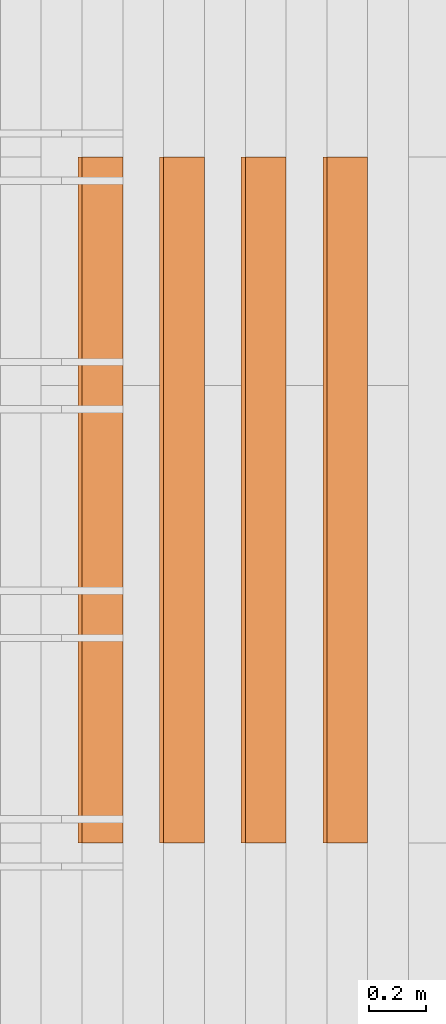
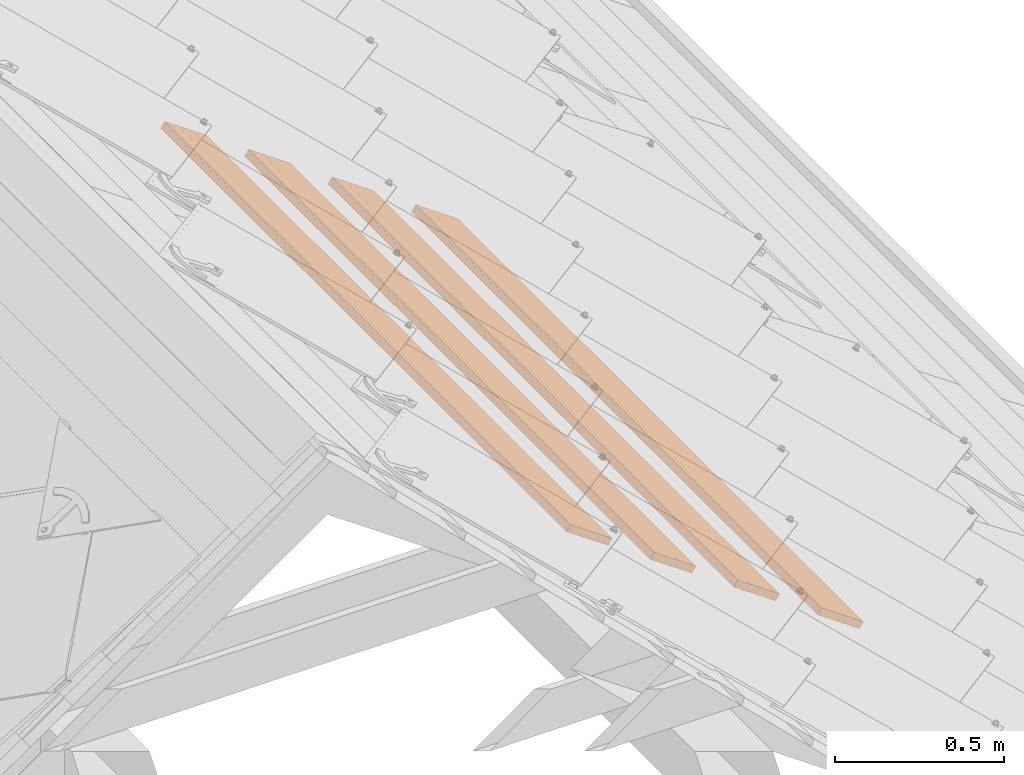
# One storey, part 42 of 133: 4 proxies, 1 element without a shape of its own.
"""IFC2X3 building model written with IfcOpenShell, lengths in millimetres."""

import ifcopenshell
import ifcopenshell.guid

model = None  # the IFC model being written
_history = None  # IfcOwnerHistory: only IFC2X3 demands one
_inside = {}  # id of a spatial element -> (the spatial element, [elements in it])
_under = {}  # id of a project, library or spatial element -> (it, [spatial elements below it])
_declared = {}  # id of a project -> (the project, [libraries it declares])
_typed = {}  # id of a type object -> (the type object, [elements of that type])
_made_of = {}  # id of a material, layer set ... -> (it, [elements and type objects made of it])


def new_model(schema):
    """Start an empty IFC model of exactly this schema.

    Asked for "IFC4X3", IfcOpenShell would pick the latest addendum, in which some entities
    have other attributes; the version numbers below select the first issue.
    IFC2X3 requires an IfcOwnerHistory on every rooted entity: one is made here for all.
    """
    global model, _history
    if schema == "IFC4X3":
        model = ifcopenshell.file(schema_version=(4, 3, 0, 0))
    else:
        model = ifcopenshell.file(schema=schema)
    _inside.clear()
    _under.clear()
    _declared.clear()
    _typed.clear()
    _made_of.clear()
    _history = None
    if model.schema == "IFC2X3":
        org = make("IfcOrganization", Name="unknown")
        user = make(
            "IfcPersonAndOrganization",
            ThePerson=make("IfcPerson", FamilyName="unknown"),
            TheOrganization=org,
        )
        app = make(
            "IfcApplication",
            ApplicationDeveloper=org,
            Version="unknown",
            ApplicationFullName="unknown",
            ApplicationIdentifier="unknown",
        )
        _history = make(
            "IfcOwnerHistory",
            OwningUser=user,
            OwningApplication=app,
            ChangeAction="ADDED",
            CreationDate=0,
        )
    return model


def make(cls, **values):
    """One entity of the class cls with the attributes given. An attribute that is None is left unset."""
    return model.create_entity(
        cls, **{name: value for name, value in values.items() if value is not None}
    )


def entity(cls, *values):
    """Any entity or typed value of the class cls, its attributes in the order of the schema. None: left unset."""
    e = model.create_entity(cls)
    for i, value in enumerate(values):
        if value is not None:
            e[i] = value
    return e


def rooted(cls, **values):
    """An entity with a GlobalId (a new one), such as an element, a storey or a relation."""
    return make(cls, GlobalId=ifcopenshell.guid.new(), OwnerHistory=_history, **values)


def si_unit(unit_type, name, prefix=None):
    """IfcSIUnit, for example si_unit("LENGTHUNIT", "METRE", prefix="MILLI")."""
    return make("IfcSIUnit", UnitType=unit_type, Prefix=prefix, Name=name)


def converted_unit(unit_type, name, factor, base, dimensions=None, offset=None):
    """IfcConversionBasedUnit, such as the inch: factor (a typed value) times the base unit."""
    return make(
        "IfcConversionBasedUnit"
        if offset is None
        else "IfcConversionBasedUnitWithOffset",
        ConversionOffset=offset,
        Dimensions=None
        if dimensions is None
        else entity("IfcDimensionalExponents", *dimensions),
        UnitType=unit_type,
        Name=name,
        ConversionFactor=make(
            "IfcMeasureWithUnit", ValueComponent=factor, UnitComponent=base
        ),
    )


def derived_unit(unit_type, elements):
    """IfcDerivedUnit: a product of units, each with its exponent."""
    return make(
        "IfcDerivedUnit",
        Elements=[
            make("IfcDerivedUnitElement", Unit=unit, Exponent=power)
            for unit, power in elements
        ],
        UnitType=unit_type,
    )


def assignment(units):
    """IfcUnitAssignment: the units of a project."""
    return None if units is None else make("IfcUnitAssignment", Units=units)


def point(xyz):
    """IfcCartesianPoint."""
    return None if xyz is None else make("IfcCartesianPoint", Coordinates=xyz)


def direction(xyz):
    """IfcDirection."""
    return None if xyz is None else make("IfcDirection", DirectionRatios=xyz)


def frame(location, z_axis=None, x_axis=None):
    """IfcAxis2Placement3D, a coordinate frame: its origin and axes. An axis left out is left unset."""
    return make(
        "IfcAxis2Placement3D",
        Location=point(location),
        Axis=direction(z_axis),
        RefDirection=direction(x_axis),
    )


def frame_2d(location, x_axis=None):
    """IfcAxis2Placement2D, a coordinate frame in the plane: its origin and x axis."""
    return make(
        "IfcAxis2Placement2D", Location=point(location), RefDirection=direction(x_axis)
    )


def origin():
    """The frame at (0, 0, 0) with its axes left unset."""
    return frame((0.0, 0.0, 0.0))


def place(relative_to, where):
    """IfcLocalPlacement: puts the frame where relative to a parent placement (None: the world)."""
    return make(
        "IfcLocalPlacement", PlacementRelTo=relative_to, RelativePlacement=where
    )


def context(
    kind, dimensions, precision=None, world=None, true_north=None, identifier=None
):
    """IfcGeometricRepresentationContext, for example the 3D "Model" context."""
    return make(
        "IfcGeometricRepresentationContext",
        ContextIdentifier=identifier,
        ContextType=kind,
        CoordinateSpaceDimension=dimensions,
        Precision=precision,
        WorldCoordinateSystem=world,
        TrueNorth=true_north,
    )


def subcontext(parent, identifier, kind, view, scale=None):
    """IfcGeometricRepresentationSubContext, for example "Body" below "Model"."""
    return make(
        "IfcGeometricRepresentationSubContext",
        ContextIdentifier=identifier,
        ContextType=kind,
        ParentContext=parent,
        TargetScale=scale,
        TargetView=view,
    )


def project(units=None, contexts=None):
    """IfcProject with its units and contexts."""
    return rooted(
        "IfcProject",
        Name="project",
        RepresentationContexts=contexts,
        UnitsInContext=assignment(units),
    )


def spatial(cls, under=None, at=None, **own):
    """A site, building, storey or space (cls), placed at a placement, below another one or the project."""
    s = rooted(cls, ObjectPlacement=at, **own)
    if under is not None:
        _under.setdefault(under.id(), (under, []))[1].append(s)
    return s


def profile(cls, at=None, kind="AREA", **sizes):
    """A parametric profile (cls). Its sizes go by their IFC names, for example OverallWidth=200.0."""
    return make(cls, ProfileType=kind, Position=at, **sizes)


def rectangle(**sizes):
    """IfcRectangleProfileDef."""
    return profile("IfcRectangleProfileDef", **sizes)


def extrude(swept, where, along, depth):
    """IfcExtrudedAreaSolid: the profile swept, set in the frame where, extruded along a direction by depth."""
    return make(
        "IfcExtrudedAreaSolid",
        SweptArea=swept,
        Position=where,
        ExtrudedDirection=direction(along),
        Depth=depth,
    )


def shape(context_of_items, identifier, shape_type, items):
    """IfcShapeRepresentation: the items that make up one representation, for example the "Body"."""
    return make(
        "IfcShapeRepresentation",
        ContextOfItems=context_of_items,
        RepresentationIdentifier=identifier,
        RepresentationType=shape_type,
        Items=items,
    )


def source(mapping_origin, context_of_items, identifier, shape_type, items):
    """IfcRepresentationMap: a shape defined once, which mapped items show again and again."""
    return make(
        "IfcRepresentationMap",
        MappingOrigin=mapping_origin,
        MappedRepresentation=shape(context_of_items, identifier, shape_type, items),
    )


def transform(
    local_origin,
    x_axis=None,
    y_axis=None,
    z_axis=None,
    scale=None,
    scale2=None,
    scale3=None,
    uniform=True,
):
    """IfcCartesianTransformationOperator3D, or its non-uniform kind. x_axis, y_axis, z_axis: its Axis1, 2, 3."""
    if uniform:
        return make(
            "IfcCartesianTransformationOperator3D",
            Axis1=direction(x_axis),
            Axis2=direction(y_axis),
            LocalOrigin=point(local_origin),
            Scale=scale,
            Axis3=direction(z_axis),
        )
    return make(
        "IfcCartesianTransformationOperator3DnonUniform",
        Axis1=direction(x_axis),
        Axis2=direction(y_axis),
        LocalOrigin=point(local_origin),
        Scale=scale,
        Axis3=direction(z_axis),
        Scale2=scale2,
        Scale3=scale3,
    )


def mapped(mapping_source, mapping_target):
    """IfcMappedItem: shows the shape of a source again, moved by a transform."""
    return make(
        "IfcMappedItem", MappingSource=mapping_source, MappingTarget=mapping_target
    )


def material(Name=None, Category=None):
    """IfcMaterial."""
    return make("IfcMaterial", Name=Name, Category=Category)


def made_of(thing, what):
    """Note that an element or type object is made of a material, layer set ...; save() writes the relation."""
    if what is not None:
        _made_of.setdefault(what.id(), (what, []))[1].append(thing)
    return thing


def type_object(cls, material=None, **own):
    """A type object (cls), such as IfcWallType, which elements share."""
    return made_of(rooted(cls, **own), material)


def type_shapes(of_type, sources):
    """Give a type object the sources (RepresentationMaps) that its elements show as mapped items."""
    of_type.RepresentationMaps = sources


def element(
    cls,
    number,
    at=None,
    inside=None,
    cuts=None,
    type_object=None,
    material=None,
    context=None,
    identifier="Body",
    shape_type=None,
    held_by="IfcProductDefinitionShape",
    body=None,
    shapes=None,
    **own,
):
    """One element of the class cls, such as IfcWall. Its Tag is "e" and its number.

    at: its placement. inside: the storey or other place that contains it. cuts: it is an
    opening in that element (IfcRelVoidsElement). A single representation is given by context,
    identifier, shape_type and body (its items); several are given by shapes. held_by: the class
    of the entity that holds the representations. save() writes the other relations.
    """
    e = rooted(cls, Tag="e%d" % number, ObjectPlacement=at, **own)
    if body is not None:
        shapes = [shape(context, identifier, shape_type, body)]
    if shapes is not None:
        e.Representation = make(held_by, Representations=shapes)
    if inside is not None:
        _inside.setdefault(inside.id(), (inside, []))[1].append(e)
    if cuts is not None:
        rooted(
            "IfcRelVoidsElement", RelatingBuildingElement=cuts, RelatedOpeningElement=e
        )
    if type_object is not None:
        _typed.setdefault(type_object.id(), (type_object, []))[1].append(e)
    return made_of(e, material)


def aggregate(whole, parts):
    """IfcRelAggregates: a whole, such as a stair, and the parts it consists of."""
    return rooted("IfcRelAggregates", RelatingObject=whole, RelatedObjects=parts)


def save(model, path):
    """Write the relations noted so far, then the file.

    IfcRelAggregates (storeys below a building ...), IfcRelContainedInSpatialStructure (elements
    in a storey), IfcRelDefinesByType, IfcRelAssociatesMaterial and IfcRelDeclares: one each for
    every whole, place, type object, material and project.
    """
    for whole, parts in _under.values():
        aggregate(whole, parts)
    for where, things in _inside.values():
        rooted(
            "IfcRelContainedInSpatialStructure",
            RelatedElements=things,
            RelatingStructure=where,
        )
    for kind, things in _typed.values():
        rooted("IfcRelDefinesByType", RelatedObjects=things, RelatingType=kind)
    for what, things in _made_of.values():
        rooted("IfcRelAssociatesMaterial", RelatedObjects=things, RelatingMaterial=what)
    for by, libraries in _declared.values():
        rooted("IfcRelDeclares", RelatingContext=by, RelatedDefinitions=libraries)
    model.write(path)


model = new_model("IFC2X3")

# Units and contexts
model_context = context("Model", 3, precision=0.01, world=origin(), true_north=direction((6.12303176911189e-17, 1.0)))
body_context = subcontext(model_context, "Body", "Model", "MODEL_VIEW")
ifc_project = project(units=[si_unit("LENGTHUNIT", "METRE", prefix="MILLI"), si_unit("AREAUNIT", "SQUARE_METRE"), si_unit("VOLUMEUNIT", "CUBIC_METRE"), converted_unit("PLANEANGLEUNIT", "DEGREE", entity("IfcRatioMeasure", 0.0174532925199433), si_unit("PLANEANGLEUNIT", "RADIAN"), dimensions=[0, 0, 0, 0, 0, 0, 0]), si_unit("MASSUNIT", "GRAM", prefix="KILO"), derived_unit("MASSDENSITYUNIT", [(si_unit("MASSUNIT", "GRAM", prefix="KILO"), 1), (si_unit("LENGTHUNIT", "METRE"), -3)]), si_unit("TIMEUNIT", "SECOND"), si_unit("FREQUENCYUNIT", "HERTZ"), si_unit("THERMODYNAMICTEMPERATUREUNIT", "DEGREE_CELSIUS"), derived_unit("THERMALTRANSMITTANCEUNIT", [(si_unit("MASSUNIT", "GRAM", prefix="KILO"), 1), (si_unit("THERMODYNAMICTEMPERATUREUNIT", "KELVIN"), -1), (si_unit("TIMEUNIT", "SECOND"), -3)]), derived_unit("VOLUMETRICFLOWRATEUNIT", [(si_unit("LENGTHUNIT", "METRE"), 3), (si_unit("TIMEUNIT", "SECOND"), -1)]), si_unit("ELECTRICCURRENTUNIT", "AMPERE"), si_unit("ELECTRICVOLTAGEUNIT", "VOLT"), si_unit("POWERUNIT", "WATT"), si_unit("FORCEUNIT", "NEWTON", prefix="KILO"), si_unit("ILLUMINANCEUNIT", "LUX"), si_unit("LUMINOUSFLUXUNIT", "LUMEN"), si_unit("LUMINOUSINTENSITYUNIT", "CANDELA"), derived_unit("USERDEFINED", [(si_unit("MASSUNIT", "GRAM", prefix="KILO"), -1), (si_unit("LENGTHUNIT", "METRE"), -2), (si_unit("TIMEUNIT", "SECOND"), 3), (si_unit("LUMINOUSFLUXUNIT", "LUMEN"), 1)]), derived_unit("LINEARVELOCITYUNIT", [(si_unit("LENGTHUNIT", "METRE"), 1), (si_unit("TIMEUNIT", "SECOND"), -1)]), si_unit("PRESSUREUNIT", "PASCAL"), derived_unit("USERDEFINED", [(si_unit("LENGTHUNIT", "METRE"), -2), (si_unit("MASSUNIT", "GRAM", prefix="KILO"), 1), (si_unit("TIMEUNIT", "SECOND"), -2)])], contexts=[model_context])

# Site, building, storey
site_placement = place(None, origin())
site = spatial("IfcSite", under=ifc_project, at=site_placement, Name="Default", CompositionType="ELEMENT")
building_placement = place(site_placement, origin())
building = spatial("IfcBuilding", under=site, at=building_placement, CompositionType="ELEMENT")
storey_placement = place(building_placement, origin())
storey = spatial("IfcBuildingStorey", under=building, at=storey_placement, Name="Level 1", CompositionType="ELEMENT", Elevation=0.0)

# Assembly, proxies
assembly_placement = place(storey_placement, origin())
assembly = element("IfcElementAssembly", 1, at=assembly_placement, inside=storey, Name="Structural Framing Assembly:Roof Construction Assembly", ObjectType="Structural Framing Assembly:Roof Construction Assembly", AssemblyPlace="NOTDEFINED", PredefinedType="USERDEFINED")
ifc_material = material(Name="Wood - Generic - Wood For Showcase")
building_element_proxy_type_1 = type_object("IfcBuildingElementProxyType", Name="Structural Framing 15", PredefinedType="NOTDEFINED", material=ifc_material)
shared_shape_1 = source(origin(), body_context, "Body", "SweptSolid", [
    extrude(rectangle(XDim=24.9999999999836, YDim=174.344679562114, at=frame_2d((2.97539770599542e-13, -4.2632564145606e-14), x_axis=(1.0, 0.0))), frame((1285.35601305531, 1525.55080214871, 2760.23940055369), z_axis=(0.0, 1.0, 0.0), x_axis=(0.573576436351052, 0.0, 0.819152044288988)), (0.0, 0.0, 1.0), 2400.0),
])
type_shapes(building_element_proxy_type_1, [shared_shape_1])
proxy_1_placement = place(assembly_placement, frame((856.888804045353, -4870.0, -600.0)))
proxy_1 = element("IfcBuildingElementProxy", 2, at=proxy_1_placement, type_object=building_element_proxy_type_1, material=ifc_material, Name="Structural Framing 187:Structural Framing 15", ObjectType="Structural Framing 187:Structural Framing 15", context=body_context, shape_type="MappedRepresentation", body=[
    mapped(shared_shape_1, transform((0.0, 0.0, 0.0), scale=1.0)),
])
building_element_proxy_type_2 = type_object("IfcBuildingElementProxyType", Name="Structural Framing 15", PredefinedType="NOTDEFINED", material=ifc_material)
shared_shape_2 = source(origin(), body_context, "Body", "SweptSolid", [
    extrude(rectangle(XDim=24.9999999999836, YDim=174.344679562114, at=frame_2d((2.97539770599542e-13, -4.2632564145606e-14), x_axis=(1.0, 0.0))), frame((1285.35601305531, 1525.55080214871, 2760.23940055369), z_axis=(0.0, 1.0, 0.0), x_axis=(0.573576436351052, 0.0, 0.819152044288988)), (0.0, 0.0, 1.0), 2400.0),
])
type_shapes(building_element_proxy_type_2, [shared_shape_2])
proxy_2_placement = place(assembly_placement, frame((1142.5184053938, -4870.0, -800.0)))
proxy_2 = element("IfcBuildingElementProxy", 3, at=proxy_2_placement, type_object=building_element_proxy_type_2, material=ifc_material, Name="Structural Framing 197:Structural Framing 15", ObjectType="Structural Framing 197:Structural Framing 15", context=body_context, shape_type="MappedRepresentation", body=[
    mapped(shared_shape_2, transform((0.0, 0.0, 0.0), scale=1.0)),
])
building_element_proxy_type_3 = type_object("IfcBuildingElementProxyType", Name="Structural Framing 15", PredefinedType="NOTDEFINED", material=ifc_material)
shared_shape_3 = source(origin(), body_context, "Body", "SweptSolid", [
    extrude(rectangle(XDim=24.9999999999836, YDim=174.344679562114, at=frame_2d((2.97539770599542e-13, -4.2632564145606e-14), x_axis=(1.0, 0.0))), frame((1285.35601305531, 1525.55080214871, 2760.23940055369), z_axis=(0.0, 1.0, 0.0), x_axis=(0.573576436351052, 0.0, 0.819152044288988)), (0.0, 0.0, 1.0), 2400.0),
])
type_shapes(building_element_proxy_type_3, [shared_shape_3])
proxy_3_placement = place(assembly_placement, frame((1428.14800674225, -4870.0, -1000.0)))
proxy_3 = element("IfcBuildingElementProxy", 4, at=proxy_3_placement, type_object=building_element_proxy_type_3, material=ifc_material, Name="Structural Framing 207:Structural Framing 15", ObjectType="Structural Framing 207:Structural Framing 15", context=body_context, shape_type="MappedRepresentation", body=[
    mapped(shared_shape_3, transform((0.0, 0.0, 0.0), scale=1.0)),
])
building_element_proxy_type_4 = type_object("IfcBuildingElementProxyType", Name="Structural Framing 15", PredefinedType="NOTDEFINED", material=ifc_material)
shared_shape_4 = source(origin(), body_context, "Body", "SweptSolid", [
    extrude(rectangle(XDim=24.9999999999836, YDim=174.344679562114, at=frame_2d((2.97539770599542e-13, -4.2632564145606e-14), x_axis=(1.0, 0.0))), frame((1285.35601305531, 1525.55080214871, 2760.23940055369), z_axis=(0.0, 1.0, 0.0), x_axis=(0.573576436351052, 0.0, 0.819152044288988)), (0.0, 0.0, 1.0), 2400.0),
])
type_shapes(building_element_proxy_type_4, [shared_shape_4])
proxy_4_placement = place(assembly_placement, frame((1713.7776080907, -4870.0, -1200.0)))
proxy_4 = element("IfcBuildingElementProxy", 5, at=proxy_4_placement, type_object=building_element_proxy_type_4, material=ifc_material, Name="Structural Framing 217:Structural Framing 15", ObjectType="Structural Framing 217:Structural Framing 15", context=body_context, shape_type="MappedRepresentation", body=[
    mapped(shared_shape_4, transform((0.0, 0.0, 0.0), scale=1.0)),
])
aggregate(assembly, [proxy_1, proxy_2, proxy_3, proxy_4])

save(model, "model.ifc")
